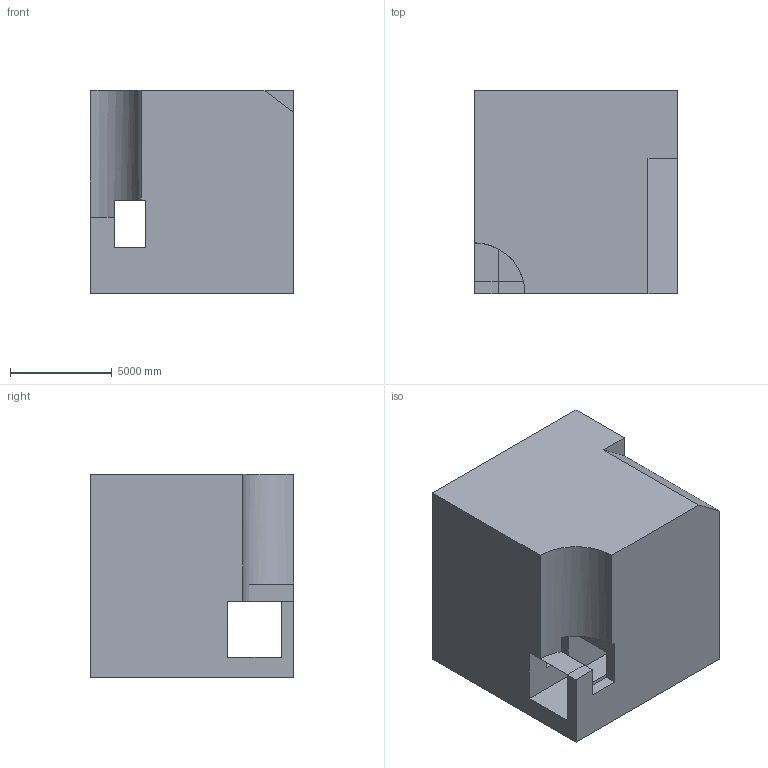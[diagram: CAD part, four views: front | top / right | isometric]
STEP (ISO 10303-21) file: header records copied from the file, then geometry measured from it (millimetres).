
FILE_DESCRIPTION (( 'STEP AP203' ), '1' );
FILE_NAME ('437.STEP', '2022-07-29T11:16:46', ( 'user' ), ( '' ), 'SwSTEP 2.0', 'SolidWorks 2021', '' );
FILE_SCHEMA (( 'CONFIG_CONTROL_DESIGN' ));
Length unit declared in the file: centimetre
Products named in the file (1): 437
Bounding box: 10000 x 10000 x 10000 mm (x, y, z)
Volume: 859929242436.2 mm3; surface area: 726001054.9 mm2
Topology: 1 solids, 1 shells, 24 faces, 75 edges, 50 vertices
Faces by surface type: plane 23, cylinder 1
Entity records: 915 total; most frequent: CARTESIAN_POINT 150, ORIENTED_EDGE 150, DIRECTION 128, EDGE_CURVE 75, VECTOR 72, LINE 72, VERTEX_POINT 50, EDGE_LOOP 29
